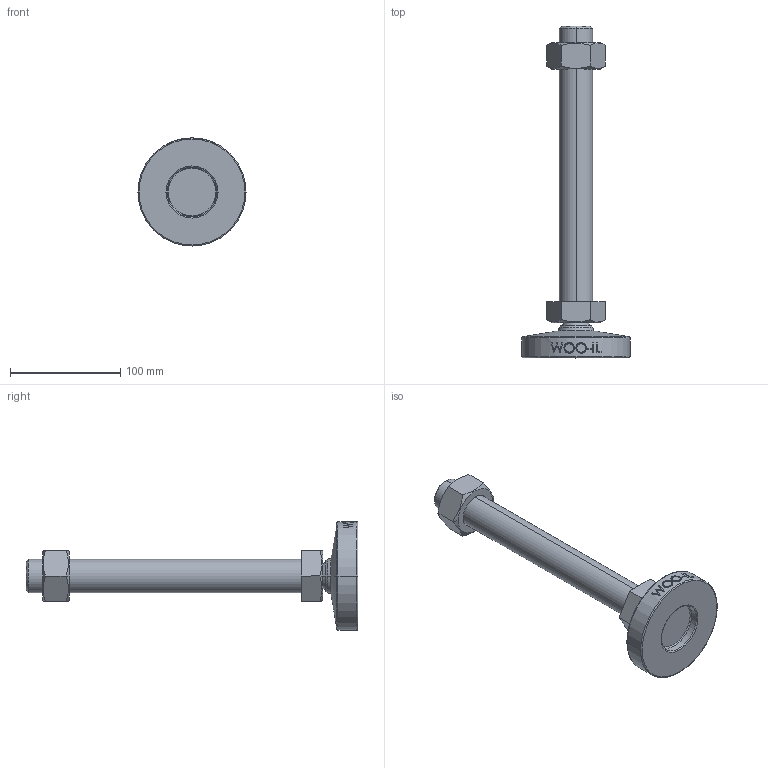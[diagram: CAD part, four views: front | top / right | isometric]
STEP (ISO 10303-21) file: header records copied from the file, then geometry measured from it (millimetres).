
FILE_DESCRIPTION (( 'STEP AP214' ), '1' );
FILE_NAME ('MFN98-M30-250.step', '2021-01-19T06:32:09', ( '' ), ( '' ), 'SwSTEP 2.0', 'SolidWorks 2019', '' );
FILE_SCHEMA (( 'AUTOMOTIVE_DESIGN' ));
Length unit declared in the file: millimetre
Products named in the file (2): MFN98-M30-250
Bounding box: 98 x 301 x 98 mm (x, y, z)
Volume: 392666.8 mm3; surface area: 59509.2 mm2
Topology: 2 solids, 2 shells, 107 faces, 247 edges, 156 vertices
Faces by surface type: plane 47, cone 18, cylinder 16, bspline 16, torus 8, sphere 2
Entity records: 4647 total; most frequent: CARTESIAN_POINT 2280, ORIENTED_EDGE 494, DIRECTION 447, EDGE_CURVE 247, AXIS2_PLACEMENT_3D 173, VERTEX_POINT 156, EDGE_LOOP 121, FACE_OUTER_BOUND 107
